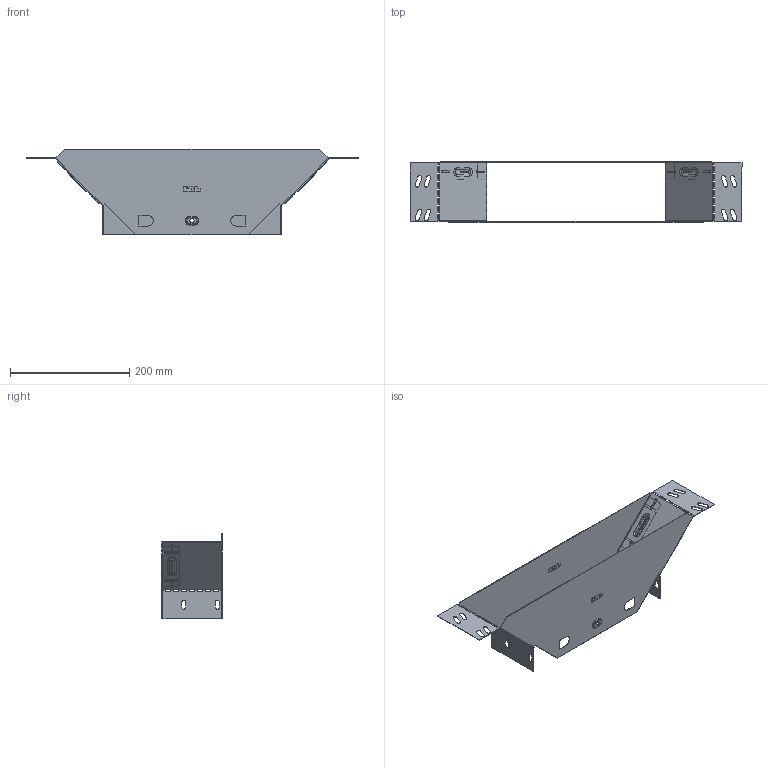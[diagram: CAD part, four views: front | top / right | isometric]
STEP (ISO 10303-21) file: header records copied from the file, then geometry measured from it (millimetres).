
FILE_DESCRIPTION (( 'STEP AP214' ), '1' );
FILE_NAME ('tn10030008_捘.STEP', '2019-06-10T08:02:34', ( '砐錪賧瘔蠈錪 Windows' ), ( '' ), 'SwSTEP 2.0', 'SolidWorks 2018', '' );
FILE_SCHEMA (( 'AUTOMOTIVE_DESIGN' ));
Length unit declared in the file: millimetre
Products named in the file (1): tn10030008_捘
Bounding box: 556.02 x 103.8 x 144 mm (x, y, z)
Volume: 109676.7 mm3; surface area: 278203.6 mm2
Topology: 2 solids, 2 shells, 706 faces, 2018 edges, 1276 vertices
Faces by surface type: plane 426, cylinder 214, torus 48, bspline 18
Entity records: 23841 total; most frequent: CARTESIAN_POINT 4959, ORIENTED_EDGE 4036, DIRECTION 3860, EDGE_CURVE 2018, VECTOR 1482, LINE 1482, VERTEX_POINT 1276, AXIS2_PLACEMENT_3D 1189
